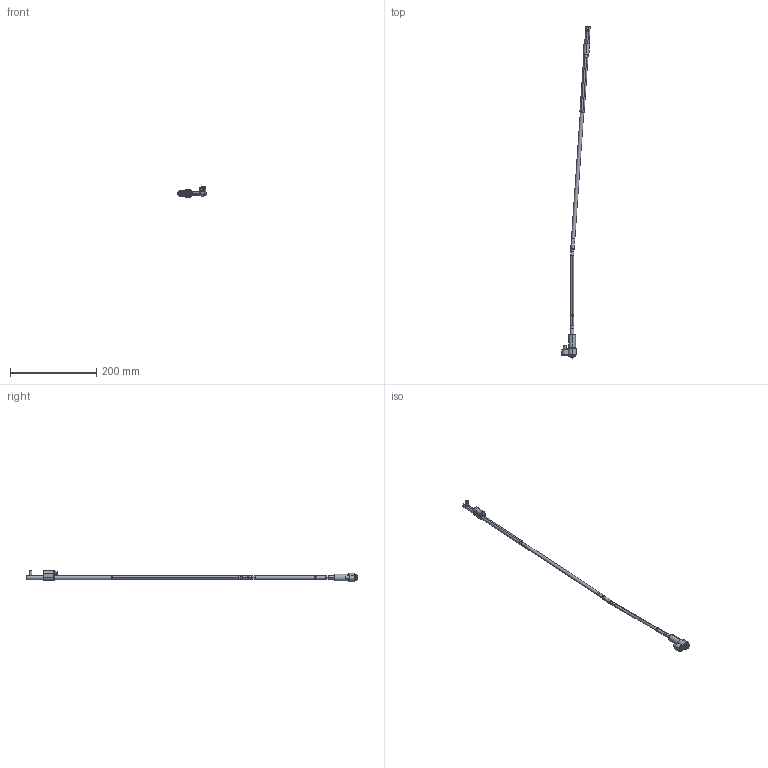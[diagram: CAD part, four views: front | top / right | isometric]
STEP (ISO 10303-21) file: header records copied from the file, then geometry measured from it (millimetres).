
FILE_DESCRIPTION (( 'STEP AP214' ), '1' );
FILE_NAME ('WL080125-INJ 4°.STEP', '2021-03-19T15:31:27', ( '' ), ( '' ), 'SwSTEP 2.0', 'SolidWorks 2019', '' );
FILE_SCHEMA (( 'AUTOMOTIVE_DESIGN' ));
Length unit declared in the file: millimetre
Products named in the file (17): Web-WL08-A1; WL080100-C; Web-WL08-F00.SLDPRT; 3IMAN4X2-150_con sello; Web-WL08-F01; Web-WL08-A3; WL080100-B_WL0800FF; WL080100-E; 1DIN912545_DIN 912 M5 x 50 --- 50C; Web-WL08XX-A7_OFF-WL080125-4; 9DR2206-TOR; Web-WP08-1; 1DIN912616_DIN 912 M6 x 16 --- 16C; WL080100-D; Web-WL08-A2; WL080125-INJ 4°; WL080100-B1_WL0800FF-1
Assembly tree (16 placements, depth 3):
  WL080125-INJ 4°
    Web-WP08-1
    Web-WL08XX-A7_OFF-WL080125-4
    Web-WL08-A3
    Web-WL08-A2
    Web-WL08-A1
    WL080100-D
    WL080100-C
    WL080100-B_WL0800FF
      WL080100-B1_WL0800FF-1
      3IMAN4X2-150_con sello
    WL080100-E
    9DR2206-TOR
    Web-WL08-F00.SLDPRT
      Web-WL08-F01
      1DIN912545_DIN 912 M5 x 50 --- 50C
      1DIN912616_DIN 912 M6 x 16 --- 16C
Bounding box: 65.79 x 771.04 x 26.9 mm (x, y, z)
Volume: 58701.6 mm3; surface area: 34416 mm2
Topology: 15 solids, 15 shells, 424 faces, 888 edges, 516 vertices
Faces by surface type: plane 132, cylinder 128, cone 116, torus 48
Entity records: 13492 total; most frequent: DIRECTION 2218, CARTESIAN_POINT 2045, ORIENTED_EDGE 1756, AXIS2_PLACEMENT_3D 921, EDGE_CURVE 878, VERTEX_POINT 516, CIRCLE 476, EDGE_LOOP 468
